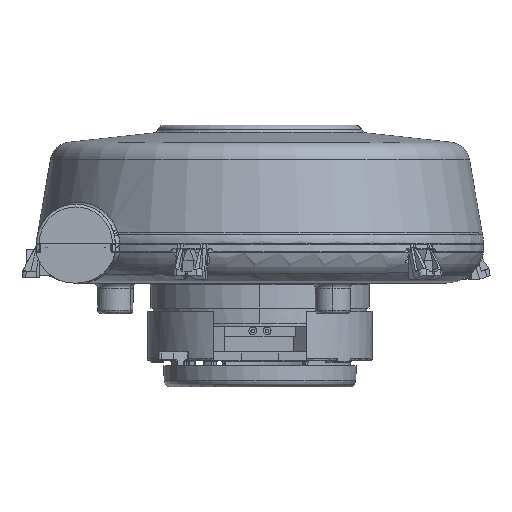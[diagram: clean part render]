
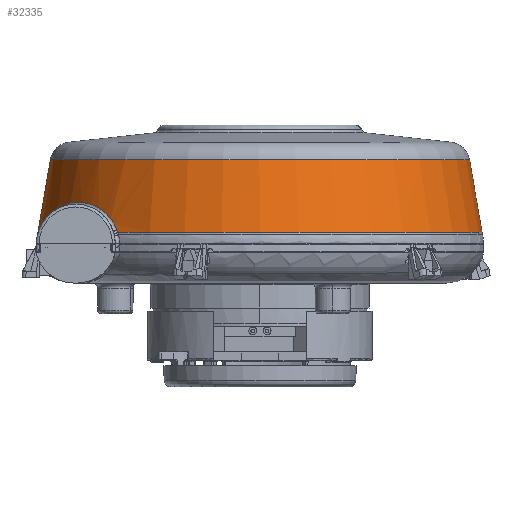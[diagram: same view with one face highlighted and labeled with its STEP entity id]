
A CAD part, left-side view. The second image highlights one B-rep face of the part: STEP entity #32335.
In plain terms, the highlighted conical face has half-angle 9.794 degrees and reference radius 60.996 mm.
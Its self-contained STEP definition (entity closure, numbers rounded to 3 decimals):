
#8251=CARTESIAN_POINT('',(-48.221,40.186,3.154));
#8281=CARTESIAN_POINT('',(0.,0.,3.154));
#8282=DIRECTION('',(0.,0.,1.));
#8283=DIRECTION('',(-0.768,0.64,0.));
#8284=AXIS2_PLACEMENT_3D('',#8281,#8282,#8283);
#8296=CARTESIAN_POINT('',(0.,0.,3.154));
#8297=DIRECTION('',(0.,0.,1.));
#8298=DIRECTION('',(0.,1.,0.));
#8299=AXIS2_PLACEMENT_3D('',#8296,#8297,#8298);
#8308=DIRECTION('',(0.,-0.17,0.985));
#8309=VECTOR('',#8308,20.868);
#8310=CARTESIAN_POINT('',(0.,62.771,3.154));
#8311=LINE('',#8310,#8309);
#8312=CARTESIAN_POINT('',(-47.898,40.408,3.764));
#8313=CARTESIAN_POINT('',(-47.935,40.382,3.697));
#8314=CARTESIAN_POINT('',(-48.009,40.33,3.564));
#8315=CARTESIAN_POINT('',(-48.117,40.256,3.361));
#8316=CARTESIAN_POINT('',(-48.187,40.209,3.224));
#8317=CARTESIAN_POINT('',(-48.221,40.186,3.154));
#8319=CARTESIAN_POINT('',(-47.898,40.408,3.764));
#8334=CARTESIAN_POINT('',(-1.647,62.749,3.154));
#8335=CARTESIAN_POINT('',(-2.011,62.724,3.246));
#8336=CARTESIAN_POINT('',(-2.773,62.661,3.458));
#8337=CARTESIAN_POINT('',(-4.011,62.523,3.87));
#8338=CARTESIAN_POINT('',(-5.362,62.338,4.359));
#8339=CARTESIAN_POINT('',(-6.838,62.098,4.916));
#8340=CARTESIAN_POINT('',(-8.453,61.794,5.526));
#8341=CARTESIAN_POINT('',(-10.227,61.411,6.191));
#8342=CARTESIAN_POINT('',(-12.182,60.929,6.909));
#8343=CARTESIAN_POINT('',(-14.355,60.32,7.681));
#8344=CARTESIAN_POINT('',(-16.774,59.551,8.497));
#8345=CARTESIAN_POINT('',(-19.463,58.581,9.339));
#8346=CARTESIAN_POINT('',(-22.558,57.308,10.202));
#8347=CARTESIAN_POINT('',(-25.804,55.782,10.947));
#8348=CARTESIAN_POINT('',(-28.891,54.141,11.46));
#8349=CARTESIAN_POINT('',(-31.592,52.552,11.716));
#8350=CARTESIAN_POINT('',(-34.022,51.001,11.755));
#8351=CARTESIAN_POINT('',(-36.205,49.505,11.595));
#8352=CARTESIAN_POINT('',(-38.15,48.092,11.258));
#8353=CARTESIAN_POINT('',(-39.873,46.78,10.769));
#8354=CARTESIAN_POINT('',(-41.396,45.58,10.152));
#8355=CARTESIAN_POINT('',(-42.733,44.498,9.431));
#8356=CARTESIAN_POINT('',(-43.904,43.538,8.628));
#8357=CARTESIAN_POINT('',(-44.933,42.692,7.756));
#8358=CARTESIAN_POINT('',(-45.84,41.955,6.821));
#8359=CARTESIAN_POINT('',(-46.632,41.327,5.838));
#8360=CARTESIAN_POINT('',(-47.32,40.807,4.818));
#8361=CARTESIAN_POINT('',(-47.716,40.529,4.119));
#8362=CARTESIAN_POINT('',(-47.898,40.408,3.764));
#8364=DIRECTION('',(0.,0.17,0.985));
#8365=VECTOR('',#8364,20.868);
#8366=CARTESIAN_POINT('',(0.,-62.771,
3.154));
#8367=LINE('',#8366,#8365);
#8416=CARTESIAN_POINT('',(0.,0.,23.719));
#8417=DIRECTION('',(0.,0.,-1.));
#8418=DIRECTION('',(0.,-1.,0.));
#8419=AXIS2_PLACEMENT_3D('',#8416,#8417,#8418);
#8421=CARTESIAN_POINT('',(0.,0.,23.719));
#8422=DIRECTION('',(0.,0.,-1.));
#8423=DIRECTION('',(-0.007,-1.,0.));
#8424=AXIS2_PLACEMENT_3D('',#8421,#8422,#8423);
#17934=VERTEX_POINT('',#8251);
#17935=CARTESIAN_POINT('',(0.,-62.771,
3.154));
#17936=VERTEX_POINT('',#17935);
#17939=CARTESIAN_POINT('',(0.,62.771,3.154));
#17940=VERTEX_POINT('',#17939);
#17941=CARTESIAN_POINT('',(-1.647,62.749,
3.154));
#17942=VERTEX_POINT('',#17941);
#17943=VERTEX_POINT('',#8319);
#17944=CARTESIAN_POINT('',(0.,59.221,
23.719));
#17945=VERTEX_POINT('',#17944);
#17946=CARTESIAN_POINT('',(-0.407,-59.22,
23.719));
#17947=VERTEX_POINT('',#17946);
#17948=CARTESIAN_POINT('',(0.,-59.221,
23.719));
#17949=VERTEX_POINT('',#17948);
#32314=CARTESIAN_POINT('',(0.,0.,13.437));
#32315=DIRECTION('',(0.,0.,-1.));
#32316=DIRECTION('',(0.,1.,0.));
#32317=AXIS2_PLACEMENT_3D('',#32314,#32315,#32316);
#32318=CONICAL_SURFACE('',#32317,60.996,9.794);
#32320=ORIENTED_EDGE('',*,*,#32319,.F.);
#32322=ORIENTED_EDGE('',*,*,#32321,.F.);
#32323=ORIENTED_EDGE('',*,*,#32306,.F.);
#32325=ORIENTED_EDGE('',*,*,#32324,.T.);
#32327=ORIENTED_EDGE('',*,*,#32326,.F.);
#32329=ORIENTED_EDGE('',*,*,#32328,.F.);
#32331=ORIENTED_EDGE('',*,*,#32330,.F.);
#32332=ORIENTED_EDGE('',*,*,#32300,.F.);
#32333=EDGE_LOOP('',(#32320,#32322,#32323,#32325,#32327,#32329,#32331,#32332));
#32334=FACE_OUTER_BOUND('',#32333,.F.);
#32335=ADVANCED_FACE('',(#32334),#32318,.T.);
#8285=CIRCLE('',#8284,62.771);
#8300=CIRCLE('',#8299,62.771);
#8318=B_SPLINE_CURVE_WITH_KNOTS('',3,(#8312,#8313,#8314,#8315,#8316,#8317),
.UNSPECIFIED.,.F.,.F.,(4,1,1,4),(0.,0.333,0.667,1.),
.UNSPECIFIED.);
#8363=B_SPLINE_CURVE_WITH_KNOTS('',3,(#8334,#8335,#8336,#8337,#8338,#8339,#8340,
#8341,#8342,#8343,#8344,#8345,#8346,#8347,#8348,#8349,#8350,#8351,#8352,#8353,
#8354,#8355,#8356,#8357,#8358,#8359,#8360,#8361,#8362),.UNSPECIFIED.,.F.,.F.,(4,
1,1,1,1,1,1,1,1,1,1,1,1,1,1,1,1,1,1,1,1,1,1,1,1,1,4),(0.,0.038,
0.077,0.115,0.154,0.192,
0.231,0.269,0.308,0.346,
0.385,0.423,0.462,0.5,0.538,
0.577,0.615,0.654,0.692,
0.731,0.769,0.808,0.846,
0.885,0.923,0.962,1.),.UNSPECIFIED.);
#8420=CIRCLE('',#8419,59.221);
#8425=CIRCLE('',#8424,59.221);
#32300=EDGE_CURVE('',#17934,#17936,#8285,.T.);
#32306=EDGE_CURVE('',#17940,#17942,#8300,.T.);
#32319=EDGE_CURVE('',#17943,#17934,#8318,.T.);
#32321=EDGE_CURVE('',#17942,#17943,#8363,.T.);
#32324=EDGE_CURVE('',#17940,#17945,#8311,.T.);
#32326=EDGE_CURVE('',#17947,#17945,#8425,.T.);
#32328=EDGE_CURVE('',#17949,#17947,#8420,.T.);
#32330=EDGE_CURVE('',#17936,#17949,#8367,.T.);
